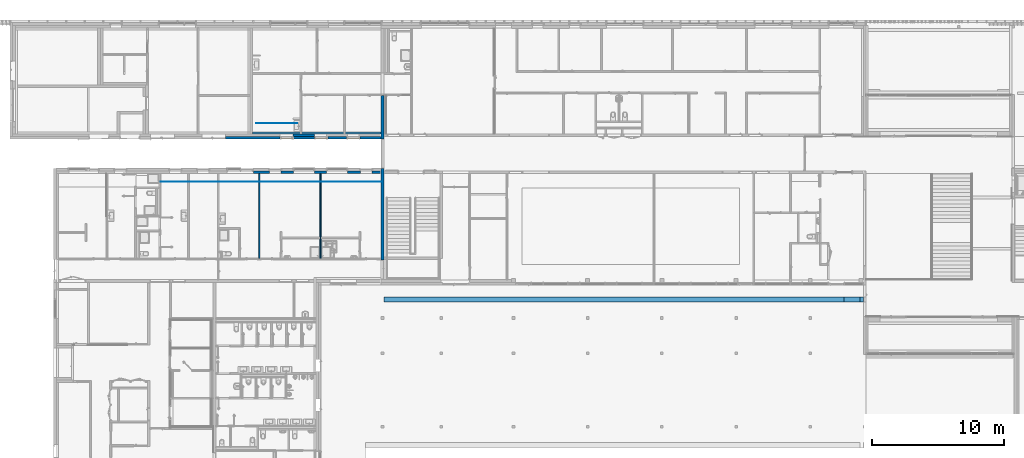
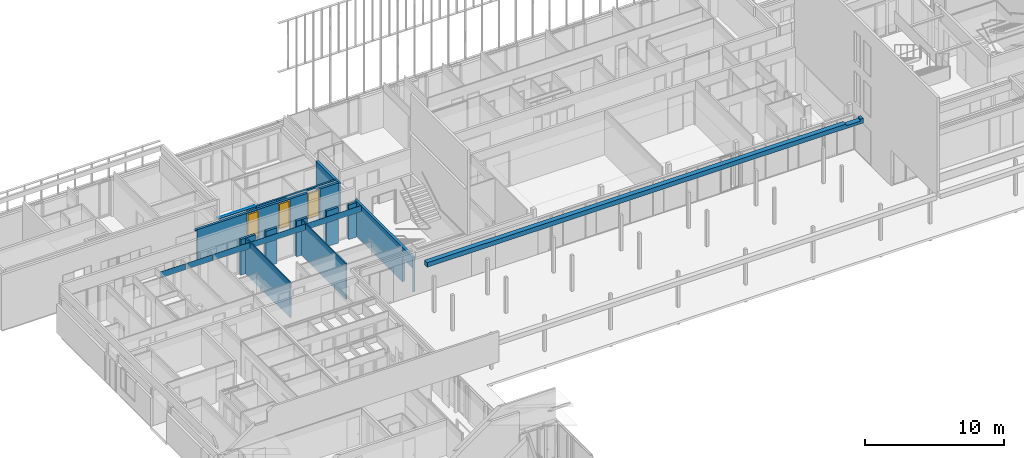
# One storey, part 129 of 240: 14 walls, 3 windows, 14 openings.
"""IFC2X3 building model written with IfcOpenShell, lengths in centimetres."""

from ifc_helpers import new_model, entity, si_unit, converted_unit, derived_unit, direction, frame, frame_2d, origin, origin_2d_with_axis, place, context, subcontext, project, spatial, polyline, rectangle, extrude, clip, bounded_halfspace, faceted_brep, source, transform, mapped, material, material_list, layer, layer_set, layer_usage, type_object, type_shapes, element, fill, save


model = new_model("IFC2X3")

# Units and contexts
model_context = context("Model", 3, precision=0.001, world=origin(), true_north=direction((6.12303176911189e-17, 1.0)))
body_context = subcontext(model_context, "Body", "Model", "MODEL_VIEW")
ifc_project = project(units=[si_unit("LENGTHUNIT", "METRE", prefix="CENTI"), si_unit("AREAUNIT", "SQUARE_METRE"), si_unit("VOLUMEUNIT", "CUBIC_METRE"), converted_unit("PLANEANGLEUNIT", "DEGREE", entity("IfcRatioMeasure", 0.0174532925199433), si_unit("PLANEANGLEUNIT", "RADIAN"), dimensions=[0, 0, 0, 0, 0, 0, 0]), si_unit("MASSUNIT", "GRAM", prefix="KILO"), derived_unit("MASSDENSITYUNIT", [(si_unit("MASSUNIT", "GRAM", prefix="KILO"), 1), (si_unit("LENGTHUNIT", "METRE"), -3)]), si_unit("TIMEUNIT", "SECOND"), si_unit("FREQUENCYUNIT", "HERTZ"), si_unit("THERMODYNAMICTEMPERATUREUNIT", "DEGREE_CELSIUS"), derived_unit("THERMALTRANSMITTANCEUNIT", [(si_unit("MASSUNIT", "GRAM", prefix="KILO"), 1), (si_unit("THERMODYNAMICTEMPERATUREUNIT", "KELVIN"), -1), (si_unit("TIMEUNIT", "SECOND"), -3)]), derived_unit("VOLUMETRICFLOWRATEUNIT", [(si_unit("LENGTHUNIT", "METRE"), 3), (si_unit("TIMEUNIT", "SECOND"), -1)]), si_unit("ELECTRICCURRENTUNIT", "AMPERE"), si_unit("ELECTRICVOLTAGEUNIT", "VOLT"), si_unit("POWERUNIT", "WATT"), si_unit("FORCEUNIT", "NEWTON", prefix="KILO"), si_unit("ILLUMINANCEUNIT", "LUX"), si_unit("LUMINOUSFLUXUNIT", "LUMEN"), si_unit("LUMINOUSINTENSITYUNIT", "CANDELA"), derived_unit("USERDEFINED", [(si_unit("MASSUNIT", "GRAM", prefix="KILO"), -1), (si_unit("LENGTHUNIT", "METRE"), -2), (si_unit("TIMEUNIT", "SECOND"), 3), (si_unit("LUMINOUSFLUXUNIT", "LUMEN"), 1)]), derived_unit("LINEARVELOCITYUNIT", [(si_unit("LENGTHUNIT", "METRE"), 1), (si_unit("TIMEUNIT", "SECOND"), -1)]), si_unit("PRESSUREUNIT", "PASCAL"), derived_unit("USERDEFINED", [(si_unit("LENGTHUNIT", "METRE"), -2), (si_unit("MASSUNIT", "GRAM", prefix="KILO"), 1), (si_unit("TIMEUNIT", "SECOND"), -2)])], contexts=[model_context])

# Site, building, storey
site_placement = place(None, frame((-2781.94577612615, 7442.24238424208, 0.0)))
site = spatial("IfcSite", under=ifc_project, at=site_placement, Name="Default", CompositionType="ELEMENT")
building_placement = place(site_placement, origin())
building = spatial("IfcBuilding", under=site, at=building_placement, CompositionType="ELEMENT")
storey_placement = place(building_placement, origin())
storey = spatial("IfcBuildingStorey", under=building, at=storey_placement, Name="N00 - COO", CompositionType="ELEMENT", Elevation=0.0)

# Wall, openings, windows
ifc_material_1 = material(Name="Aluminium bardage")
ifc_layer_1 = layer(ifc_material_1, 0.5)
ifc_material_2 = material(Name="01 - Lame d'air")
ifc_layer_2 = layer(ifc_material_2, 1.5)
ifc_material_3 = material(Name="00 - Isolant")
ifc_layer_3 = layer(ifc_material_3, 18.0)
ifc_layer_set_1 = layer_set([ifc_layer_1, ifc_layer_2, ifc_layer_3], Name="Mur de base:04 - Parement - ITE 18cm + vide 2cm")
ifc_layer_usage_1 = layer_usage(ifc_layer_set_1, "AXIS2", "POSITIVE", -10.0)
wall_type_1 = type_object("IfcWallType", Name="Mur de base:04 - Parement - ITE 18cm + vide 2cm", PredefinedType="STANDARD", material=ifc_layer_set_1)
wall_1_placement = place(building_placement, frame((-9624.49987766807, -840.048500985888, 0.0)))
wall_1 = element("IfcWallStandardCase", 1, at=wall_1_placement, inside=storey, type_object=wall_type_1, material=ifc_layer_usage_1, Name="Mur de base:04 - Parement - ITE 18cm + vide 2cm", ObjectType="Mur de base:04 - Parement - ITE 18cm + vide 2cm", context=body_context, shape_type="SweptSolid", body=[
    extrude(rectangle(XDim=1195.0, YDim=20.0, at=frame_2d((597.500000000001, 3.81916720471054e-14), x_axis=(-1.0, 0.0))), origin(), (0.0, 0.0, 1.0), 316.500000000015),
])
opening_1_placement = place(wall_1_placement, origin())
element("IfcOpeningElement", 2, at=opening_1_placement, cuts=wall_1, Name="Mur de base:04 - Parement - ITE 18cm + vide 2cm", ObjectType="Opening", context=body_context, shape_type="SweptSolid", body=[
    extrude(rectangle(XDim=310.999999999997, YDim=99.9999999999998, at=frame_2d((-8.66862137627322e-13, 0.0), x_axis=(0.0, 1.0))), frame((483.500000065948, -25.24, 155.499999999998), z_axis=(0.0, 1.0, 0.0), x_axis=(-1.0, 0.0, 0.0)), (0.0, 0.0, 1.0), 50.48),
])
opening_2_placement = place(wall_1_placement, frame((-158.0, -10.1000000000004, -15.0)))
element("IfcOpeningElement", 3, at=opening_2_placement, cuts=wall_1, Name="Mur de base:04 - Parement - ITE 18cm + vide 2cm", ObjectType="Opening", context=body_context, shape_type="Brep", body=[
    faceted_brep([(178.0, 0.0, 324.0), (2.0, 0.0, 324.0), (2.0, 0.0, 0.0), (178.0, 0.0, 0.0), (178.0, 1.30000000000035, 0.0), (178.0, 1.30000000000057, 324.0), (2.0, 1.3000000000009, 0.0), (0.0, 1.30000000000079, 0.0), (0.0, 61.3000000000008, 0.0), (180.0, 61.3000000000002, 0.0), (180.0, 1.30000000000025, 0.0), (2.0, 1.3000000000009, 324.0), (0.0, 61.3000000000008, 326.0), (180.0, 61.3000000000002, 326.0), (0.0, 1.30000000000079, 326.0), (180.0, 1.30000000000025, 326.0)], [[[0, 1, 2, 3]], [[3, 4, 5, 0]], [[2, 6, 7, 8, 9, 10, 4, 3]], [[1, 11, 6, 2]], [[0, 5, 11, 1]], [[12, 13, 9, 8]], [[14, 7, 6, 11, 5, 4, 10, 15]], [[8, 7, 14, 12]], [[13, 15, 10, 9]], [[12, 14, 15, 13]]]),
])
opening_3_placement = place(wall_1_placement, origin())
element("IfcOpeningElement", 4, at=opening_3_placement, cuts=wall_1, Name="Mur de base:04 - Parement - ITE 18cm + vide 2cm", ObjectType="Opening", context=body_context, shape_type="SweptSolid", body=[
    extrude(rectangle(XDim=316.500000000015, YDim=99.9999999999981, at=frame_2d((0.0, 0.0), x_axis=(0.0, 1.0))), frame((985.553301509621, -25.2399999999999, 158.250000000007), z_axis=(0.0, 1.0, 0.0), x_axis=(-1.0, 0.0, 0.0)), (0.0, 0.0, 1.0), 50.48),
])
opening_4_placement = place(wall_1_placement, origin())
element("IfcOpeningElement", 5, at=opening_4_placement, cuts=wall_1, Name="Mur de base:04 - Parement - ITE 18cm + vide 2cm", ObjectType="Opening", context=body_context, shape_type="SweptSolid", body=[
    extrude(rectangle(XDim=310.999999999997, YDim=99.9999999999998, at=frame_2d((-8.66862137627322e-13, 0.0), x_axis=(0.0, 1.0))), frame((742.500000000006, -25.2399999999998, 155.499999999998), z_axis=(0.0, 1.0, 0.0), x_axis=(-1.0, 0.0, 0.0)), (0.0, 0.0, 1.0), 50.48),
])
opening_5_placement = place(wall_1_placement, origin())
element("IfcOpeningElement", 6, at=opening_5_placement, cuts=wall_1, Name="Mur de base:04 - Parement - ITE 18cm + vide 2cm", ObjectType="Opening", context=body_context, shape_type="SweptSolid", body=[
    extrude(rectangle(XDim=326.0, YDim=179.999999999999, at=frame_2d((0.0, 8.66862137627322e-13), x_axis=(1.0, 0.0))), frame((-454.161819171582, -10.0999999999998, 148.0), z_axis=(0.0, 1.0, 0.0), x_axis=(0.0, 0.0, -1.0)), (0.0, 0.0, 1.0), 61.3),
])
opening_6_placement = place(wall_1_placement, frame((1031.5, 10.0, 85.7000000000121)))
opening_6 = element("IfcOpeningElement", 7, at=opening_6_placement, cuts=wall_1, Name="Ouvrant vitré:Ouvrant vitré (87cm):1", ObjectType="Opening", context=body_context, shape_type="SweptSolid", body=[
    extrude(rectangle(XDim=224.0, YDim=92.0000000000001, at=frame_2d((112.0, 46.0), x_axis=(1.0, 0.0))), frame((0.0, 0.0, 0.0), z_axis=(0.0, -1.0, 0.0), x_axis=(0.0, 0.0, 1.0)), (0.0, 0.0, 1.0), 20.0),
])
opening_7_placement = place(wall_1_placement, frame((788.44669849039, 10.0, 80.0)))
opening_7 = element("IfcOpeningElement", 8, at=opening_7_placement, cuts=wall_1, Name="Ouvrant vitré:Ouvrant vitré (87cm):1", ObjectType="Opening", context=body_context, shape_type="SweptSolid", body=[
    extrude(rectangle(XDim=224.0, YDim=92.0000000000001, at=frame_2d((112.0, 46.0), x_axis=(1.0, 0.0))), frame((0.0, 0.0, 0.0), z_axis=(0.0, -1.0, 0.0), x_axis=(0.0, 0.0, 1.0)), (0.0, 0.0, 1.0), 20.0),
])
opening_8_placement = place(wall_1_placement, frame((529.446698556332, 10.0, 80.0)))
opening_8 = element("IfcOpeningElement", 9, at=opening_8_placement, cuts=wall_1, Name="Ouvrant vitré:Ouvrant vitré (87cm):1", ObjectType="Opening", context=body_context, shape_type="SweptSolid", body=[
    extrude(rectangle(XDim=224.0, YDim=92.0000000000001, at=frame_2d((112.0, 46.0), x_axis=(1.0, 0.0))), frame((0.0, 0.0, 0.0), z_axis=(0.0, -1.0, 0.0), x_axis=(0.0, 0.0, 1.0)), (0.0, 0.0, 1.0), 20.0),
])
ifc_material_4 = material(Name="Verre")
ifc_material_5 = material(Name="Aluminium")
ifc_material_list_1 = material_list([ifc_material_4, ifc_material_5])
ifc_material_list_2 = material_list([ifc_material_4, ifc_material_5])
window_style = type_object("IfcWindowStyle", Name="Ouvrant vitré (87cm)", ConstructionType="NOTDEFINED", OperationType="NOTDEFINED", ParameterTakesPrecedence=False, Sizeable=False, material=ifc_material_list_2)
shared_shape = source(origin(), body_context, "Body", "Brep", [
    faceted_brep([(6.50000000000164, 15.2499999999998, 217.5), (85.5000000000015, 15.2500000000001, 217.5), (85.5000000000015, 15.2500000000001, 6.49999999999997), (6.50000000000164, 15.2499999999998, 6.49999999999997), (6.50000000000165, 13.2499999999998, 6.49999999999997), (6.50000000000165, 13.2499999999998, 217.5), (85.5000000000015, 13.2500000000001, 6.49999999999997), (85.5000000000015, 13.2500000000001, 217.5)], [[[0, 1, 2, 3]], [[3, 4, 5, 0]], [[2, 6, 4, 3]], [[1, 7, 6, 2]], [[5, 4, 6, 7]], [[0, 5, 7, 1]]]),
    faceted_brep([(6.50000000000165, 16.5105205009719, 217.5), (6.50000000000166, 16.5105205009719, 6.50000000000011), (85.5000000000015, 16.5105205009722, 6.50000000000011), (85.5000000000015, 16.5105205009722, 217.5), (3.50000000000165, 16.5105205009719, 220.5), (88.5000000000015, 16.5105205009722, 220.5), (88.5000000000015, 16.5105205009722, 3.50000000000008), (3.50000000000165, 16.5105205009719, 3.50000000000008), (3.50000000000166, 13.0105205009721, 3.50000000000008), (3.50000000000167, 13.0105205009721, 220.5), (88.5000000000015, 13.0105205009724, 3.50000000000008), (88.5000000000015, 13.0105205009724, 220.5), (85.5000000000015, 13.0105205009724, 6.50000000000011), (85.5000000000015, 13.0105205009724, 217.5), (6.50000000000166, 13.0105205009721, 6.50000000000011), (6.50000000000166, 13.0105205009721, 217.5)], [[[0, 1, 2, 3], [4, 5, 6, 7]], [[7, 8, 9, 4]], [[6, 10, 8, 7]], [[5, 11, 10, 6]], [[2, 12, 13, 3]], [[1, 14, 12, 2]], [[0, 15, 14, 1]], [[9, 8, 10, 11], [15, 13, 12, 14]], [[4, 9, 11, 5]], [[3, 13, 15, 0]]], outer=[[False, True], [True], [True], [True], [True], [True], [True], [True, False], [True], [True]]),
    faceted_brep([(5.0, 16.5105205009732, 219.0), (5.0, 16.5105205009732, 5.0), (5.0, 18.0105205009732, 5.0), (5.0, 18.0105205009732, 219.0), (87.0, 18.0105205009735, 5.0), (87.0, 18.0105205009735, 219.0), (0.0, 18.0105205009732, 0.0), (0.0, 18.0105205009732, 224.0), (92.0, 18.0105205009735, 224.0), (92.0, 18.0105205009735, 0.0), (87.0, 16.5105205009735, 5.0), (87.0, 16.5105205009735, 219.0), (3.50000000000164, 16.5105205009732, 220.5), (3.50000000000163, 16.5105205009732, 3.50000000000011), (88.5000000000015, 16.5105205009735, 3.50000000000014), (88.5000000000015, 16.5105205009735, 220.5), (3.50000000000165, 13.0105205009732, 220.5), (3.50000000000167, 13.0105205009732, 3.50000000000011), (88.5000000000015, 13.0105205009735, 3.50000000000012), (88.5000000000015, 13.0105205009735, 220.5), (0.0, 13.0105205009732, 224.0), (0.0, 13.0105205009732, 0.0), (92.0, 13.0105205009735, 0.0), (92.0, 13.0105205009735, 224.0)], [[[0, 1, 2, 3]], [[3, 2, 4, 5], [6, 7, 8, 9]], [[1, 10, 4, 2]], [[1, 0, 11, 10], [12, 13, 14, 15]], [[16, 17, 13, 12]], [[17, 18, 14, 13]], [[17, 16, 19, 18], [20, 21, 22, 23]], [[7, 6, 21, 20]], [[6, 9, 22, 21]], [[10, 11, 5, 4]], [[18, 19, 15, 14]], [[9, 8, 23, 22]], [[11, 0, 3, 5]], [[19, 16, 12, 15]], [[8, 7, 20, 23]]], outer=[[True], [False, True], [True], [False, True], [True], [True], [False, True], [True], [True], [True], [True], [True], [True], [True], [True]]),
])
type_shapes(window_style, [shared_shape])
window_1_placement = place(opening_6_placement, frame((0.0, 0.0, 0.0), z_axis=(0.0, 0.0, 1.0), x_axis=(-1.0, 0.0, 0.0)))
window_1 = element("IfcWindow", 10, at=window_1_placement, inside=storey, type_object=window_style, material=ifc_material_list_1, Name="Ouvrant vitré:Ouvrant vitré (87cm)", ObjectType="Ouvrant vitré:Ouvrant vitré (87cm)", OverallHeight=224.0, OverallWidth=92.0000000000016, context=body_context, shape_type="MappedRepresentation", body=[
    mapped(shared_shape, transform((0.0, 0.0, 0.0), scale=1.0)),
])
fill(opening_6, window_1)
ifc_material_list_3 = material_list([ifc_material_4, ifc_material_5])
window_2_placement = place(opening_7_placement, frame((0.0, 0.0, 0.0), z_axis=(0.0, 0.0, 1.0), x_axis=(-1.0, 0.0, 0.0)))
window_2 = element("IfcWindow", 11, at=window_2_placement, inside=storey, type_object=window_style, material=ifc_material_list_3, Name="Ouvrant vitré:Ouvrant vitré (87cm)", ObjectType="Ouvrant vitré:Ouvrant vitré (87cm)", OverallHeight=224.0, OverallWidth=92.0000000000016, context=body_context, shape_type="MappedRepresentation", body=[
    mapped(shared_shape, transform((0.0, 0.0, 0.0), scale=1.0)),
])
fill(opening_7, window_2)
ifc_material_list_4 = material_list([ifc_material_4, ifc_material_5])
window_3_placement = place(opening_8_placement, frame((0.0, 0.0, 0.0), z_axis=(0.0, 0.0, 1.0), x_axis=(-1.0, 0.0, 0.0)))
window_3 = element("IfcWindow", 12, at=window_3_placement, inside=storey, type_object=window_style, material=ifc_material_list_4, Name="Ouvrant vitré:Ouvrant vitré (87cm)", ObjectType="Ouvrant vitré:Ouvrant vitré (87cm)", OverallHeight=224.0, OverallWidth=92.0000000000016, context=body_context, shape_type="MappedRepresentation", body=[
    mapped(shared_shape, transform((0.0, 0.0, 0.0), scale=1.0)),
])
fill(opening_8, window_3)

# Wall
ifc_material_6 = material(Name="01 - Maçonnerie")
ifc_layer_4 = layer(ifc_material_6, 20.0)
ifc_layer_set_2 = layer_set([ifc_layer_4], Name="Mur de base:04 - Structure - béton - 20cm")
ifc_layer_usage_2 = layer_usage(ifc_layer_set_2, "AXIS2", "NEGATIVE", 10.0)
wall_type_2 = type_object("IfcWallType", Name="Mur de base:04 - Structure - béton - 20cm", PredefinedType="STANDARD", material=ifc_layer_set_2)
wall_2_placement = place(building_placement, frame((-8433.49987766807, -1100.0, 0.0), z_axis=(0.0, 0.0, 1.0), x_axis=(-1.0, 0.0, 0.0)))
element("IfcWallStandardCase", 13, at=wall_2_placement, inside=storey, type_object=wall_type_2, material=ifc_layer_usage_2, Name="Mur de base:04 - Structure - béton - 20cm", ObjectType="Mur de base:04 - Structure - béton - 20cm", context=body_context, shape_type="SweptSolid", body=[
    extrude(rectangle(XDim=64.9999999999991, YDim=20.0000000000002, at=frame_2d((32.4999999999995, 0.0), x_axis=(-1.0, 0.0))), origin(), (0.0, 0.0, 1.0), 302.0),
])

# Wall, openings
ifc_layer_usage_3 = layer_usage(ifc_layer_set_2, "AXIS2", "NEGATIVE", 10.0)
wall_3_placement = place(building_placement, frame((-8419.49987766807, -1910.07903364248, 0.0), z_axis=(0.0, 0.0, 1.0), x_axis=(0.0, 1.0, 0.0)))
wall_3 = element("IfcWallStandardCase", 14, at=wall_3_placement, inside=storey, type_object=wall_type_2, material=ifc_layer_usage_3, Name="Mur de base:04 - Structure - béton - 20cm", ObjectType="Mur de base:04 - Structure - béton - 20cm", context=body_context, shape_type="SweptSolid", body=[
    extrude(rectangle(XDim=1390.07903364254, YDim=19.9999999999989, at=frame_2d((695.03951682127, -5.32907051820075e-15), x_axis=(-1.0, 0.0))), origin(), (0.0, 0.0, 1.0), 306.000000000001),
])
opening_9_placement = place(wall_3_placement, frame((1063.03053265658, 10.0, 0.0)))
element("IfcOpeningElement", 15, at=opening_9_placement, cuts=wall_3, Name="châssis intérieur vitré:RDC - Pignon -  châssis intérieur vitré (3.11m):1", ObjectType="Opening", context=body_context, shape_type="SweptSolid", body=[
    extrude(rectangle(XDim=306.0, YDim=225.951498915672, at=frame_2d((153.0, 112.975749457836), x_axis=(1.0, 0.0))), frame((0.0, 0.0, 0.0), z_axis=(0.0, -1.0, 0.0), x_axis=(0.0, 0.0, 1.0)), (0.0, 0.0, 1.0), 20.0),
])
opening_10_placement = place(wall_3_placement, frame((148.5, 10.0, 0.0)))
element("IfcOpeningElement", 16, at=opening_10_placement, cuts=wall_3, Name="Int. Double:PP (1.40m x 2.04m):1", ObjectType="Opening", context=body_context, shape_type="SweptSolid", body=[
    extrude(rectangle(XDim=207.500000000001, YDim=147.0, at=frame_2d((103.750000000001, 73.5000000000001), x_axis=(1.0, 0.0))), frame((0.0, 0.0, 0.0), z_axis=(0.0, -1.0, 0.0), x_axis=(0.0, 0.0, 1.0)), (0.0, 0.0, 1.0), 20.0),
])

# Walls
ifc_layer_usage_4 = layer_usage(ifc_layer_set_2, "AXIS2", "NEGATIVE", 10.0)
wall_4_placement = place(building_placement, frame((-8841.99987766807, -1100.0, 0.0), z_axis=(0.0, 0.0, 1.0), x_axis=(-1.0, 0.0, 0.0)))
element("IfcWallStandardCase", 17, at=wall_4_placement, inside=storey, type_object=wall_type_2, material=ifc_layer_usage_4, Name="Mur de base:04 - Structure - béton - 20cm", ObjectType="Mur de base:04 - Structure - béton - 20cm", context=body_context, shape_type="SweptSolid", body=[
    extrude(rectangle(XDim=89.9999999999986, YDim=20.0000000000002, at=frame_2d((44.9999999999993, 0.0), x_axis=(-1.0, 0.0))), origin(), (0.0, 0.0, 1.0), 313.0),
])
ifc_layer_usage_5 = layer_usage(ifc_layer_set_2, "AXIS2", "NEGATIVE", 10.0)
wall_5_placement = place(building_placement, frame((-8585.49987766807, -1100.0, 0.0), z_axis=(0.0, 0.0, 1.0), x_axis=(-1.0, 0.0, 0.0)))
element("IfcWallStandardCase", 18, at=wall_5_placement, inside=storey, type_object=wall_type_2, material=ifc_layer_usage_5, Name="Mur de base:04 - Structure - béton - 20cm", ObjectType="Mur de base:04 - Structure - béton - 20cm", context=body_context, shape_type="SweptSolid", body=[
    extrude(rectangle(XDim=96.4999999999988, YDim=20.0000000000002, at=frame_2d((48.2499999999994, 7.99360577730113e-15), x_axis=(-1.0, 0.0))), origin(), (0.0, 0.0, 1.0), 313.0),
])
ifc_layer_usage_6 = layer_usage(ifc_layer_set_2, "AXIS2", "NEGATIVE", 10.0)
wall_6_placement = place(building_placement, frame((-9091.99987766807, -1100.0, 0.0), z_axis=(0.0, 0.0, 1.0), x_axis=(-1.0, 0.0, 0.0)))
element("IfcWallStandardCase", 19, at=wall_6_placement, inside=storey, type_object=wall_type_2, material=ifc_layer_usage_6, Name="Mur de base:04 - Structure - béton - 20cm", ObjectType="Mur de base:04 - Structure - béton - 20cm", context=body_context, shape_type="SweptSolid", body=[
    extrude(rectangle(XDim=94.0000000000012, YDim=20.0000000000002, at=frame_2d((47.0000000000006, 5.32907051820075e-15), x_axis=(-1.0, 0.0))), origin(), (0.0, 0.0, 1.0), 313.0),
])
ifc_layer_usage_7 = layer_usage(ifc_layer_set_2, "AXIS2", "NEGATIVE", 10.0)
wall_7_placement = place(building_placement, frame((-9272.99987766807, -1100.0, 0.0), z_axis=(0.0, 0.0, 1.0), x_axis=(-1.0, 0.0, 0.0)))
element("IfcWallStandardCase", 20, at=wall_7_placement, inside=storey, type_object=wall_type_2, material=ifc_layer_usage_7, Name="Mur de base:04 - Structure - béton - 20cm", ObjectType="Mur de base:04 - Structure - béton - 20cm", context=body_context, shape_type="SweptSolid", body=[
    extrude(rectangle(XDim=121.500000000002, YDim=20.0000000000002, at=frame_2d((60.7500000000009, -9.9475983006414e-14), x_axis=(-1.0, 0.0))), origin(), (0.0, 0.0, 1.0), 313.0),
])
ifc_layer_usage_8 = layer_usage(ifc_layer_set_2, "AXIS2", "NEGATIVE", 10.0)
wall_8_placement = place(building_placement, frame((-9095.99987760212, -820.04850098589, 0.0)))
element("IfcWallStandardCase", 21, at=wall_8_placement, inside=storey, type_object=wall_type_2, material=ifc_layer_usage_8, Name="Mur de base:04 - Structure - béton - 20cm", ObjectType="Mur de base:04 - Structure - béton - 20cm", context=body_context, shape_type="SweptSolid", body=[
    extrude(rectangle(XDim=163.999999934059, YDim=20.0, at=frame_2d((81.9999999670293, 0.0), x_axis=(-1.0, 0.0))), origin(), (0.0, 0.0, 1.0), 316.500000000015),
])
ifc_layer_5 = layer(ifc_material_6, 40.0)
ifc_layer_set_3 = layer_set([ifc_layer_5], Name="Mur de base:04 - Structure - Béton - 40")
ifc_layer_usage_9 = layer_usage(ifc_layer_set_3, "AXIS2", "NEGATIVE", 20.0)
wall_type_3 = type_object("IfcWallType", Name="Mur de base:04 - Structure - Béton - 40", PredefinedType="STANDARD", material=ifc_layer_set_3)
wall_9_placement = place(storey_placement, frame((-4787.99987760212, -2060.07903364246, 313.0), z_axis=(0.0, 0.0, 1.0), x_axis=(-1.0, 0.0, 0.0)))
element("IfcWallStandardCase", 22, at=wall_9_placement, inside=storey, type_object=wall_type_3, material=ifc_layer_usage_9, Name="Mur de base:04 - Structure - Béton - 40", ObjectType="Mur de base:04 - Structure - Béton - 40", context=body_context, shape_type="Clipping", body=[
    clip(extrude(rectangle(XDim=3619.00000003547, YDim=40.0000000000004, at=frame_2d((1809.50000001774, 5.50670620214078e-14), x_axis=(-1.0, 0.0))), origin(), (0.0, 0.0, 1.0), 39.9999999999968), bounded_halfspace(frame((24.0, -20.0, 25.0), z_axis=(0.0, 0.0, 1.0), x_axis=(-1.0, 0.0, 0.0)), False, frame((24.0, -20.0, 25.0)), polyline([(0.0, 0.0), (121.500000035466, 0.0), (121.500000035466, 40.0), (0.0, 40.0), (0.0, 0.0)]))),
])
ifc_material_7 = material(Name="01 - Enduit/Plâtre")
ifc_layer_6 = layer(ifc_material_7, 1.3)
ifc_layer_7 = layer(ifc_material_3, 7.4)
ifc_layer_8 = layer(ifc_material_7, 1.3)
ifc_layer_set_4 = layer_set([ifc_layer_6, ifc_layer_7, ifc_layer_8], Name="Mur de base:06 - cloisons - Ba13 10cm")
ifc_layer_usage_10 = layer_usage(ifc_layer_set_4, "AXIS2", "NEGATIVE", 5.0)
wall_type_4 = type_object("IfcWallType", Name="Mur de base:06 - cloisons - Ba13 10cm", PredefinedType="STANDARD", material=ifc_layer_set_4)
wall_10_placement = place(building_placement, frame((-9349.49987766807, -1110.0, 0.0), z_axis=(0.0, 0.0, 1.0), x_axis=(0.0, -1.0, 0.0)))
element("IfcWallStandardCase", 23, at=wall_10_placement, inside=storey, type_object=wall_type_4, material=ifc_layer_usage_10, Name="Mur de base:06 - cloisons - Ba13 10cm", ObjectType="Mur de base:06 - cloisons - Ba13 10cm", context=body_context, shape_type="Clipping", body=[
    clip(extrude(rectangle(XDim=640.000000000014, YDim=10.0000000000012, at=frame_2d((320.000000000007, 0.0), x_axis=(-1.0, 0.0))), origin(), (0.0, 0.0, 1.0), 313.0), bounded_halfspace(frame((0.0, -5.0, 0.0), z_axis=(1.0, 0.0, 0.0), x_axis=(0.0, 1.0, 0.0)), True, frame((0.0, -5.0, 0.0), z_axis=(1.0, 0.0, 0.0), x_axis=(0.0, 1.0, 0.0)), polyline([(0.0, 0.0), (10.0, 0.0), (10.0, 313.0), (0.0, 313.0), (0.0, 0.0)]))),
])
ifc_layer_usage_11 = layer_usage(ifc_layer_set_4, "AXIS2", "NEGATIVE", 5.0)
wall_11_placement = place(building_placement, frame((-8886.99987766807, -1110.0, 0.0), z_axis=(0.0, 0.0, 1.0), x_axis=(0.0, -1.0, 0.0)))
element("IfcWallStandardCase", 24, at=wall_11_placement, inside=storey, type_object=wall_type_4, material=ifc_layer_usage_11, Name="Mur de base:06 - cloisons - Ba13 10cm", ObjectType="Mur de base:06 - cloisons - Ba13 10cm", context=body_context, shape_type="Clipping", body=[
    clip(extrude(rectangle(XDim=640.000000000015, YDim=10.0000000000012, at=frame_2d((320.000000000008, 0.0), x_axis=(-1.0, 0.0))), origin(), (0.0, 0.0, 1.0), 313.0), bounded_halfspace(frame((0.0, -5.0, 0.0), z_axis=(1.0, 0.0, 0.0), x_axis=(0.0, 1.0, 0.0)), True, frame((0.0, -5.0, 0.0), z_axis=(1.0, 0.0, 0.0), x_axis=(0.0, 1.0, 0.0)), polyline([(0.0, 0.0), (10.0, 0.0), (10.0, 313.0), (0.0, 313.0), (0.0, 0.0)]))),
])
ifc_layer_9 = layer(ifc_material_3, 16.0)
ifc_layer_set_5 = layer_set([ifc_layer_9], Name="Mur de base:04 - retour isolation acrotère - ITE 16cm")
ifc_layer_usage_12 = layer_usage(ifc_layer_set_5, "AXIS2", "NEGATIVE", 8.0)
wall_type_5 = type_object("IfcWallType", Name="Mur de base:04 - retour isolation acrotère - ITE 16cm", PredefinedType="STANDARD", material=ifc_layer_set_5)
wall_12_placement = place(building_placement, frame((-8429.49987766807, -802.048500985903, 301.5), z_axis=(0.0, 0.0, 1.0), x_axis=(-1.0, 0.0, 0.0)))
element("IfcWallStandardCase", 25, at=wall_12_placement, inside=storey, type_object=wall_type_5, material=ifc_layer_usage_12, Name="Mur de base:04 - retour isolation acrotère - ITE 16cm", ObjectType="Mur de base:04 - retour isolation acrotère - ITE 16cm", context=body_context, shape_type="SweptSolid", body=[
    extrude(rectangle(XDim=970.000000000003, YDim=16.0, at=frame_2d((485.000000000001, -1.77635683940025e-15), x_axis=(-1.0, 0.0))), origin(), (0.0, 0.0, 1.0), 15.0000000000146),
])

# Wall, openings
ifc_layer_10 = layer(ifc_material_7, 1.3)
ifc_material_8 = material(Name="00 - VIDE D'AIR")
ifc_layer_11 = layer(ifc_material_8, 0.7)
ifc_layer_set_6 = layer_set([ifc_layer_10, ifc_layer_11], Name="Mur de base:06 - habillage Ba13 collée 2cm")
ifc_layer_usage_13 = layer_usage(ifc_layer_set_6, "AXIS2", "NEGATIVE", 1.0)
wall_type_6 = type_object("IfcWallType", Name="Mur de base:06 - habillage Ba13 collée 2cm", PredefinedType="STANDARD", material=ifc_layer_set_6)
wall_13_placement = place(building_placement, frame((-10094.4998776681, -1171.0, 260.0)))
wall_13 = element("IfcWallStandardCase", 26, at=wall_13_placement, inside=storey, type_object=wall_type_6, material=ifc_layer_usage_13, Name="Mur de base:06 - habillage Ba13 collée 2cm", ObjectType="Mur de base:06 - habillage Ba13 collée 2cm", context=body_context, shape_type="SweptSolid", body=[
    extrude(rectangle(XDim=1665.0, YDim=1.99999999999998, at=frame_2d((832.5, 8.97615315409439e-14), x_axis=(-1.0, 0.0))), origin(), (0.0, 0.0, 1.0), 52.9999999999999),
])
opening_11_placement = place(building_placement, frame((-10094.4998776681, -1171.0, 260.0)))
element("IfcOpeningElement", 27, at=opening_11_placement, cuts=wall_13, Name="Mur de base:06 - habillage Ba13 collée 2cm:1", ObjectType="Opening", context=body_context, shape_type="SweptSolid", body=[
    extrude(rectangle(XDim=52.9999999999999, YDim=1.99999999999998, at=frame_2d((0.0, -1.08302256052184e-13), x_axis=(1.0, 0.0))), frame((430.0, 0.0, 26.4999999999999), z_axis=(1.0, 0.0, 0.0), x_axis=(0.0, 0.0, -1.0)), (0.0, 0.0, 1.0), 9.99999999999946),
])
opening_12_placement = place(building_placement, frame((-10094.4998776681, -1171.0, 260.0)))
element("IfcOpeningElement", 28, at=opening_12_placement, cuts=wall_13, Name="Mur de base:06 - habillage Ba13 collée 2cm:2", ObjectType="Opening", context=body_context, shape_type="SweptSolid", body=[
    extrude(rectangle(XDim=52.9999999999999, YDim=1.99999999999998, at=origin_2d_with_axis()), frame((205.0, 0.0, 26.4999999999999), z_axis=(1.0, 0.0, 0.0), x_axis=(0.0, 0.0, -1.0)), (0.0, 0.0, 1.0), 9.99999999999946),
])
opening_13_placement = place(building_placement, frame((-10094.4998776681, -1171.0, 260.0)))
element("IfcOpeningElement", 29, at=opening_13_placement, cuts=wall_13, Name="Mur de base:06 - habillage Ba13 collée 2cm:3", ObjectType="Opening", context=body_context, shape_type="SweptSolid", body=[
    extrude(rectangle(XDim=52.9999999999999, YDim=1.99999999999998, at=origin_2d_with_axis()), frame((1202.5, 0.0, 26.4999999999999), z_axis=(1.0, 0.0, 0.0), x_axis=(0.0, 0.0, -1.0)), (0.0, 0.0, 1.0), 9.99999999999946),
])
opening_14_placement = place(building_placement, frame((-10094.4998776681, -1171.0, 260.0)))
element("IfcOpeningElement", 30, at=opening_14_placement, cuts=wall_13, Name="Mur de base:06 - habillage Ba13 collée 2cm:4", ObjectType="Opening", context=body_context, shape_type="SweptSolid", body=[
    extrude(rectangle(XDim=52.9999999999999, YDim=1.99999999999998, at=origin_2d_with_axis()), frame((740.0, 0.0, 26.4999999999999), z_axis=(1.0, 0.0, 0.0), x_axis=(0.0, 0.0, -1.0)), (0.0, 0.0, 1.0), 9.99999999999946),
])

# Wall
ifc_layer_usage_14 = layer_usage(ifc_layer_set_6, "AXIS2", "POSITIVE", -1.0)
wall_14_placement = place(storey_placement, frame((-9061.50893061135, -729.275721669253, 265.0), z_axis=(0.0, 0.0, 1.0), x_axis=(-1.0, 0.0, 0.0)))
element("IfcWallStandardCase", 31, at=wall_14_placement, inside=storey, type_object=wall_type_6, material=ifc_layer_usage_14, Name="Mur de base:06 - habillage Ba13 collée 2cm", ObjectType="Mur de base:06 - habillage Ba13 collée 2cm", context=body_context, shape_type="Clipping", body=[
    clip(extrude(rectangle(XDim=309.000000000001, YDim=1.99999999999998, at=frame_2d((154.5, -1.43773881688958e-14), x_axis=(-1.0, 0.0))), origin(), (0.0, 0.0, 1.0), 0.499999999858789), bounded_halfspace(frame((0.0, -1.0, 0.499999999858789), z_axis=(0.0, 0.0, 1.0), x_axis=(-1.0, 0.0, 0.0)), False, frame((0.0, -1.0, 0.499999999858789)), polyline([(0.0, 0.0), (309.0, 0.0), (309.0, 2.0), (0.0, 2.0), (0.0, 0.0)]))),
])

save(model, "model.ifc")
